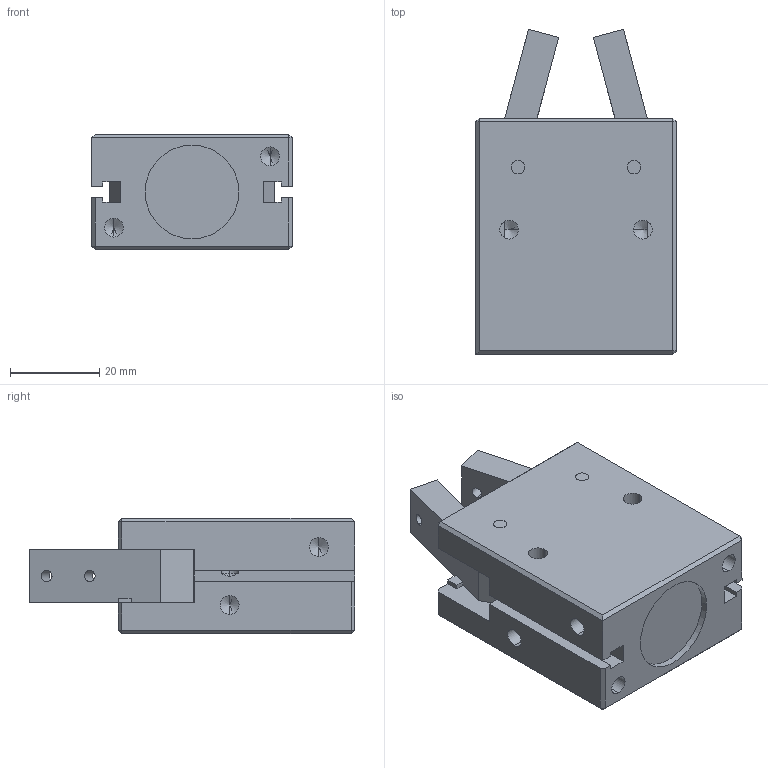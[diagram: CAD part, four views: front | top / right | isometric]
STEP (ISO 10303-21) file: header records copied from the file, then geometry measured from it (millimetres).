
FILE_DESCRIPTION (( 'STEP AP203' ), '1' );
FILE_NAME ('GDS.20-CLOSE.STEP', '2011-10-20T11:48:40', ( 'Christophe Gaillard' ), ( 'SGA' ), 'SwSTEP 2.0', 'SolidWorks 2010', '' );
FILE_SCHEMA (( 'CONFIG_CONTROL_DESIGN' ));
Products named in the file (6): GDS.20-CLOSE; Pièce7; CORPS.GDS20; Pièce67; mors.20; Pièce9
Assembly tree (8 placements, depth 2):
  GDS.20-CLOSE
    Pièce9  x2
    Pièce7  x2
    mors.20  x2
    CORPS.GDS20
    Pièce67
Bounding box: 45 x 72.94 x 26 mm (x, y, z)
Volume: 57069.3 mm3; surface area: 20061.8 mm2
Topology: 8 solids, 8 shells, 580 faces, 1545 edges, 1010 vertices
Faces by surface type: plane 298, bspline 218, cylinder 48, cone 16
Entity records: 32829 total; most frequent: CARTESIAN_POINT 19806, ORIENTED_EDGE 2926, DIRECTION 1795, EDGE_CURVE 1463, VERTEX_POINT 966, VECTOR 941, LINE 941, EDGE_LOOP 615
